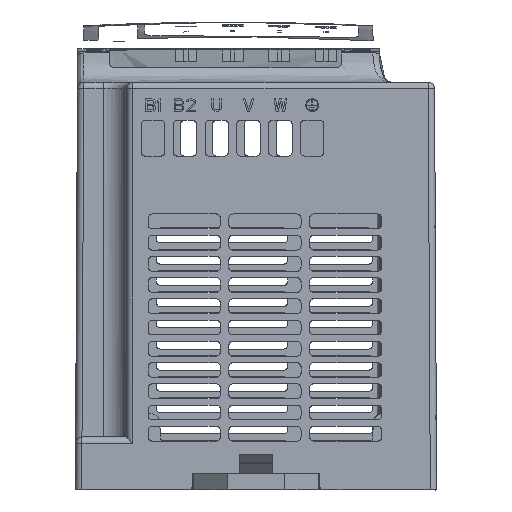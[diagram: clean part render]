
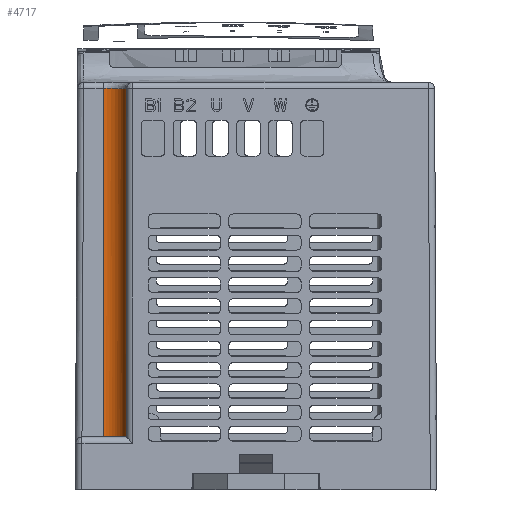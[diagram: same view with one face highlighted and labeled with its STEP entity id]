
A CAD part, front view. The second image highlights one B-rep face of the part: STEP entity #4717.
In plain terms, the highlighted cylindrical face has radius 5.5 mm (diameter 11 mm), a partial arc.
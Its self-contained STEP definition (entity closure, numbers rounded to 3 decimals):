
#1163 = VECTOR ( 'NONE', #18479, 1000. ) ;
#1164 = VECTOR ( 'NONE', #18485, 1000. ) ;
#1234 = EDGE_LOOP ( 'NONE', ( #11731, #11733, #11732, #11735 ) ) ;
#4717 = ADVANCED_FACE ( 'NONE', ( #79230 ), #79241, .F. ) ;
#7382 = EDGE_CURVE ( 'NONE', #8079, #8077, #64496, .T. ) ;
#7435 = EDGE_CURVE ( 'NONE', #8096, #8077, #18475, .T. ) ;
#7437 = EDGE_CURVE ( 'NONE', #8079, #8097, #18481, .T. ) ;
#7439 = EDGE_CURVE ( 'NONE', #8096, #8097, #64540, .T. ) ;
#8077 = VERTEX_POINT ( 'NONE', #26894 ) ;
#8079 = VERTEX_POINT ( 'NONE', #26896 ) ;
#8096 = VERTEX_POINT ( 'NONE', #26913 ) ;
#8097 = VERTEX_POINT ( 'NONE', #26914 ) ;
#11731 = ORIENTED_EDGE ( 'NONE', *, *, #7435, .T. ) ;
#11732 = ORIENTED_EDGE ( 'NONE', *, *, #7437, .T. ) ;
#11733 = ORIENTED_EDGE ( 'NONE', *, *, #7382, .F. ) ;
#11735 = ORIENTED_EDGE ( 'NONE', *, *, #7439, .F. ) ;
#17728 = CARTESIAN_POINT ( 'NONE',  ( -29.5, 14.865, 90.552 ) ) ;
#17730 = CARTESIAN_POINT ( 'NONE',  ( -29.165, 14.865, 90.552 ) ) ;
#17732 = CARTESIAN_POINT ( 'NONE',  ( -28.377, 14.793, 90.552 ) ) ;
#17734 = CARTESIAN_POINT ( 'NONE',  ( -27.188, 14.417, 90.548 ) ) ;
#17736 = CARTESIAN_POINT ( 'NONE',  ( -26.026, 13.7, 90.541 ) ) ;
#17738 = CARTESIAN_POINT ( 'NONE',  ( -25.074, 12.722, 90.532 ) ) ;
#17740 = CARTESIAN_POINT ( 'NONE',  ( -24.389, 11.541, 90.521 ) ) ;
#17742 = CARTESIAN_POINT ( 'NONE',  ( -24.058, 10.387, 90.51 ) ) ;
#17744 = CARTESIAN_POINT ( 'NONE',  ( -24., 9.647, 90.503 ) ) ;
#17746 = CARTESIAN_POINT ( 'NONE',  ( -24., 9.36, 90.5 ) ) ;
#18473 = CARTESIAN_POINT ( 'NONE',  ( -24., 6.496, 8.5 ) ) ;
#18475 = LINE ( 'NONE', #18477, #1163 ) ;
#18477 = CARTESIAN_POINT ( 'NONE',  ( -24., 6.496, 8.5 ) ) ;
#18479 = DIRECTION ( 'NONE',  ( 0., 0.035, 0.999 ) ) ;
#18481 = LINE ( 'NONE', #18483, #1164 ) ;
#18483 = CARTESIAN_POINT ( 'NONE',  ( -29.5, 14.865, 90.552 ) ) ;
#18485 = DIRECTION ( 'NONE',  ( 0., -0.035, -0.999 ) ) ;
#18487 = CARTESIAN_POINT ( 'NONE',  ( -24., 7.225, 8.5 ) ) ;
#18489 = CARTESIAN_POINT ( 'NONE',  ( -24.14, 7.926, 8.5 ) ) ;
#18491 = CARTESIAN_POINT ( 'NONE',  ( -24.698, 9.276, 8.5 ) ) ;
#18493 = CARTESIAN_POINT ( 'NONE',  ( -25.096, 9.872, 8.5 ) ) ;
#18495 = CARTESIAN_POINT ( 'NONE',  ( -26.126, 10.904, 8.5 ) ) ;
#18497 = CARTESIAN_POINT ( 'NONE',  ( -26.722, 11.302, 8.5 ) ) ;
#18499 = CARTESIAN_POINT ( 'NONE',  ( -28.07, 11.86, 8.5 ) ) ;
#18501 = CARTESIAN_POINT ( 'NONE',  ( -28.772, 12., 8.5 ) ) ;
#18503 = CARTESIAN_POINT ( 'NONE',  ( -29.5, 12., 8.5 ) ) ;
#26894 = CARTESIAN_POINT ( 'NONE',  ( -24., 9.36, 90.5 ) ) ;
#26896 = CARTESIAN_POINT ( 'NONE',  ( -29.5, 14.865, 90.552 ) ) ;
#26913 = CARTESIAN_POINT ( 'NONE',  ( -24., 6.496, 8.5 ) ) ;
#26914 = CARTESIAN_POINT ( 'NONE',  ( -29.5, 12., 8.5 ) ) ;
#39151 = CARTESIAN_POINT ( 'NONE',  ( -29.5, 9.426, 92.389 ) ) ;
#39153 = DIRECTION ( 'NONE',  ( 0., -0.035, -0.999 ) ) ;
#39155 = DIRECTION ( 'NONE',  ( 0., 0.999, -0.035 ) ) ;
#64496 =( BOUNDED_CURVE ( )  B_SPLINE_CURVE ( 3, ( #17728, #17730, #17732, #17734, #17736, #17738, #17740, #17742, #17744, #17746 ),
 .UNSPECIFIED., .F., .F. ) 
 B_SPLINE_CURVE_WITH_KNOTS ( ( 4, 1, 1, 1, 1, 1, 1, 4 ),
 ( 0., 0.116, 0.273, 0.43, 0.587, 0.743, 0.9, 1. ),
 .UNSPECIFIED. ) 
 CURVE ( )  GEOMETRIC_REPRESENTATION_ITEM ( )  RATIONAL_B_SPLINE_CURVE ( ( 1.172, 1.172, 1.172, 1.172, 1.172, 1.172, 1.172, 1.172, 1.172, 1.172 ) ) 
 REPRESENTATION_ITEM ( '' )  );
#64540 = B_SPLINE_CURVE_WITH_KNOTS ( 'NONE', 3,
 ( #18473, #18487, #18489, #18491, #18493, #18495, #18497, #18499, #18501, #18503 ),
 .UNSPECIFIED., .F., .F.,
 ( 4, 2, 2, 2, 4 ),
 ( 0., 0.25, 0.5, 0.75, 1. ),
 .UNSPECIFIED. ) ;
#79230 = FACE_OUTER_BOUND ( 'NONE', #1234, .T. ) ;
#79239 = AXIS2_PLACEMENT_3D ( 'NONE', #39151, #39153, #39155 ) ;
#79241 = CYLINDRICAL_SURFACE ( 'NONE', #79239, 5.5 ) ;
